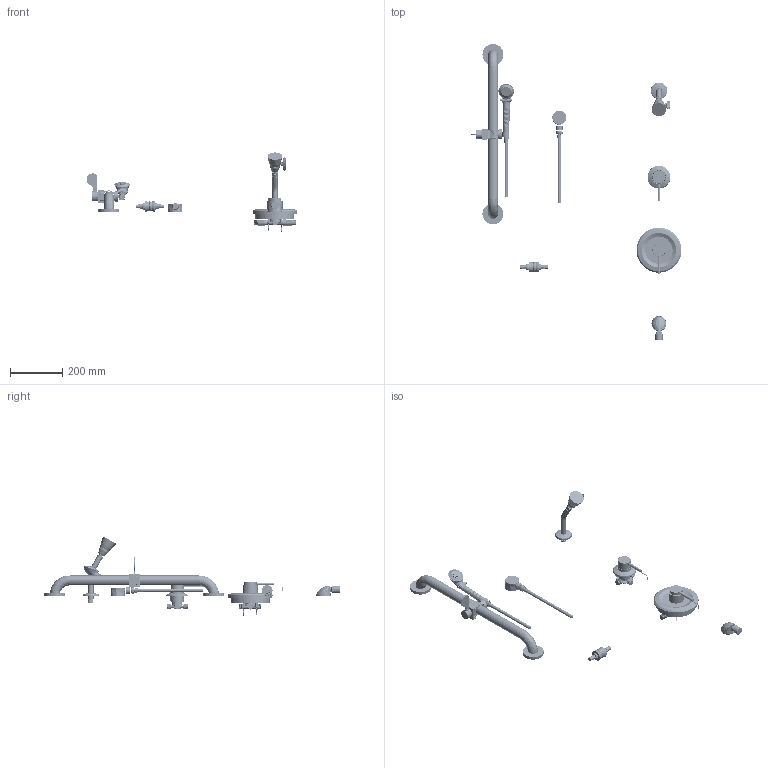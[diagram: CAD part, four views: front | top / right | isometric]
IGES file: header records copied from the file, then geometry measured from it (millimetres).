
Start section:  PTC IGES file: sh-pb5-36-053_rev030724.igs
Global section: file name: sh-pb5-36-053_rev030724.igs; native system: Creo Parametric by PTC Inc.; preprocessor: 2021184; author: rodjo; organization: Unknown; date: 20240307.120938; units: inch
Bounding box: 806.32 x 1131.24 x 302.64 mm (x, y, z)
Surface area: 525009.6 mm2 (no closed solid volume)
Topology: 0 solids, 0 shells, 1687 faces, 14076 edges, 19112 vertices
Faces by surface type: revolution 1287, bspline 400
